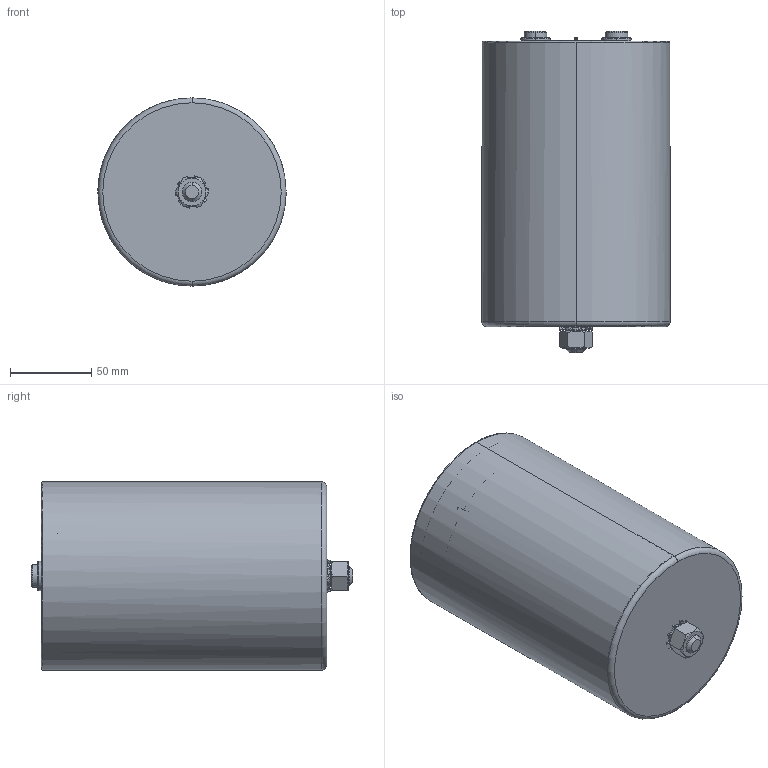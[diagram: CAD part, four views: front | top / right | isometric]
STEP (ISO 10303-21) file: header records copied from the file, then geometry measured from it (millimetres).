
FILE_DESCRIPTION (( 'STEP AP214' ), '1' );
FILE_NAME ('B25695 Series D116 Hc176 Ht182.STEP', '2024-06-04T08:41:56', ( '' ), ( '' ), 'SwSTEP 2.0', 'SolidWorks 2019', '' );
FILE_SCHEMA (( 'AUTOMOTIVE_DESIGN' ));
Length unit declared in the file: millimetre
Products named in the file (1): B25695 Series D116 Hc176 Ht182
Bounding box: 116 x 198 x 116 mm (x, y, z)
Volume: 157146.7 mm3; surface area: 188569.5 mm2
Topology: 1 solids, 2 shells, 371 faces, 1009 edges, 645 vertices
Faces by surface type: plane 137, cylinder 124, cone 50, bspline 40, torus 16, sphere 4
Entity records: 12572 total; most frequent: CARTESIAN_POINT 3598, ORIENTED_EDGE 2002, DIRECTION 1734, EDGE_CURVE 1001, AXIS2_PLACEMENT_3D 647, VERTEX_POINT 645, VECTOR 440, LINE 440
